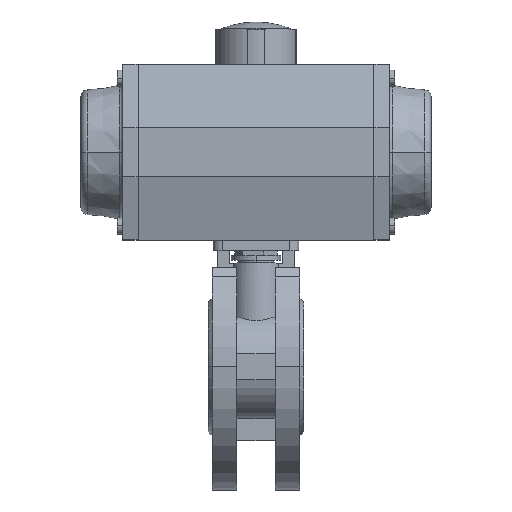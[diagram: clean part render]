
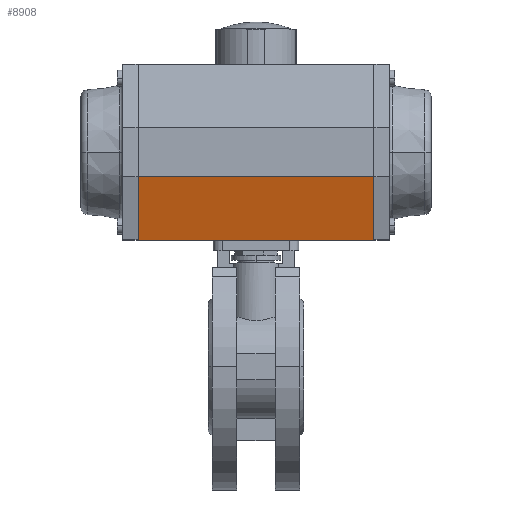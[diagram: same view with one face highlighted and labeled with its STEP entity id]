
A CAD part, top view. The second image highlights one B-rep face of the part: STEP entity #8908.
In plain terms, the highlighted planar face has unit normal (0, -0.255, 0.967) as drawn and (-0.967, -0.255, 0) by its records, which use the part's own axes.
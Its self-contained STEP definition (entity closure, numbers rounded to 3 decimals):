
#2664 = ORIENTED_EDGE ( 'NONE', *, *, #9021, .F. ) ;
#2665 = ORIENTED_EDGE ( 'NONE', *, *, #9020, .F. ) ;
#2666 = ORIENTED_EDGE ( 'NONE', *, *, #9019, .T. ) ;
#2667 = ORIENTED_EDGE ( 'NONE', *, *, #9017, .T. ) ;
#3202 = VERTEX_POINT ( 'NONE', #12390 ) ;
#4516 = CARTESIAN_POINT ( 'NONE',  ( -33., -50., 67. ) ) ;
#4518 = CARTESIAN_POINT ( 'NONE',  ( -42.5, -14., -67. ) ) ;
#4521 = CARTESIAN_POINT ( 'NONE',  ( -33., -50., -67. ) ) ;
#5469 = FACE_OUTER_BOUND ( 'NONE', #12667, .T. ) ;
#5470 = PLANE ( 'NONE',  #13580 ) ;
#5480 = CARTESIAN_POINT ( 'NONE',  ( -33., -50., -67. ) ) ;
#5481 = DIRECTION ( 'NONE',  ( 0.967, 0.255, 0. ) ) ;
#5482 = DIRECTION ( 'NONE',  ( -0.255, 0.967, 0. ) ) ;
#8908 = ADVANCED_FACE ( 'NONE', ( #5469 ), #5470, .F. ) ;
#9017 = EDGE_CURVE ( 'NONE', #12142, #12137, #10977, .T. ) ;
#9019 = EDGE_CURVE ( 'NONE', #12137, #3202, #10983, .T. ) ;
#9020 = EDGE_CURVE ( 'NONE', #12139, #3202, #10986, .T. ) ;
#9021 = EDGE_CURVE ( 'NONE', #12142, #12139, #10946, .T. ) ;
#10946 = LINE ( 'NONE', #10990, #13762 ) ;
#10977 = LINE ( 'NONE', #10979, #13761 ) ;
#10979 = CARTESIAN_POINT ( 'NONE',  ( -33., -50., -67. ) ) ;
#10980 = DIRECTION ( 'NONE',  ( 0., 0., 1. ) ) ;
#10983 = LINE ( 'NONE', #10984, #13763 ) ;
#10984 = CARTESIAN_POINT ( 'NONE',  ( -33., -50., 67. ) ) ;
#10985 = DIRECTION ( 'NONE',  ( -0.255, 0.967, 0. ) ) ;
#10986 = LINE ( 'NONE', #10988, #13764 ) ;
#10988 = CARTESIAN_POINT ( 'NONE',  ( -42.5, -14., -67. ) ) ;
#10989 = DIRECTION ( 'NONE',  ( 0., 0., 1. ) ) ;
#10990 = CARTESIAN_POINT ( 'NONE',  ( -33., -50., -67. ) ) ;
#10991 = DIRECTION ( 'NONE',  ( -0.255, 0.967, 0. ) ) ;
#12137 = VERTEX_POINT ( 'NONE', #4516 ) ;
#12139 = VERTEX_POINT ( 'NONE', #4518 ) ;
#12142 = VERTEX_POINT ( 'NONE', #4521 ) ;
#12390 = CARTESIAN_POINT ( 'NONE',  ( -42.5, -14., 67. ) ) ;
#12667 = EDGE_LOOP ( 'NONE', ( #2667, #2666, #2665, #2664 ) ) ;
#13580 = AXIS2_PLACEMENT_3D ( 'NONE', #5480, #5481, #5482 ) ;
#13761 = VECTOR ( 'NONE', #10980, 1000. ) ;
#13762 = VECTOR ( 'NONE', #10991, 1000. ) ;
#13763 = VECTOR ( 'NONE', #10985, 1000. ) ;
#13764 = VECTOR ( 'NONE', #10989, 1000. ) ;
